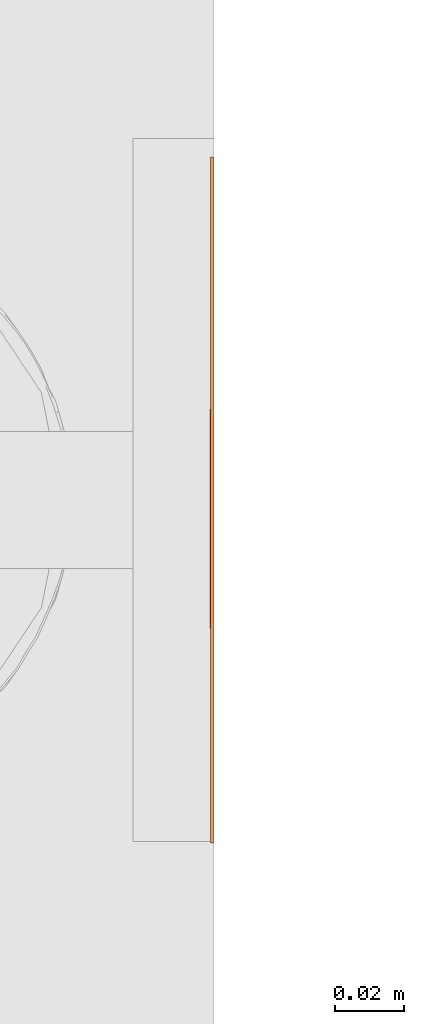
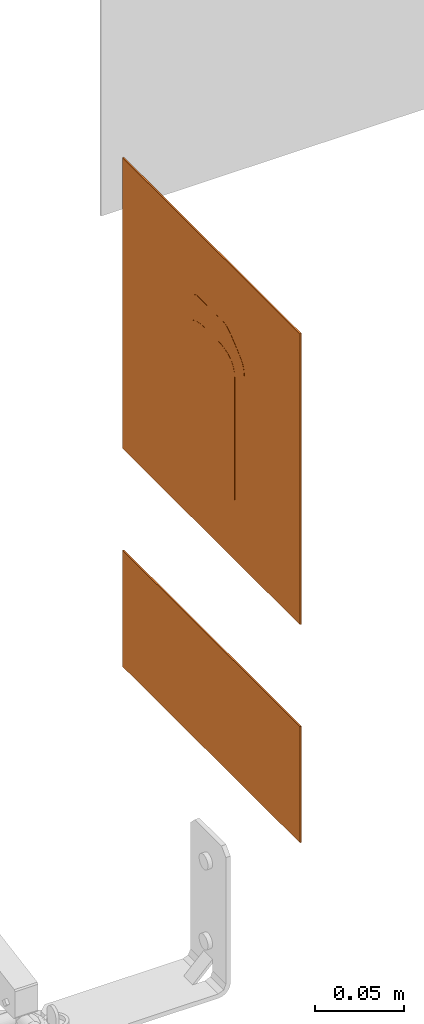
# One storey, part 66 of 119: 2 proxies.
"""IFC2X3 building model written with IfcOpenShell, lengths in metres."""

from ifc_helpers import new_model, entity, si_unit, converted_unit, derived_unit, direction, frame, frame_2d, origin, origin_2d_with_axis, place, context, subcontext, project, spatial, polyline, circle_curve, parameter, trimmed, segment, composite_curve, rectangle, outline, extrude, source, transform, mapped, material, material_list, type_object, type_shapes, element, save


model = new_model("IFC2X3")

# Units and contexts
model_context = context("Model", 3, precision=1e-05, world=origin(), true_north=direction((6.12303176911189e-17, 1.0)))
body_context = subcontext(model_context, "Body", "Model", "MODEL_VIEW")
ifc_project = project(units=[si_unit("LENGTHUNIT", "METRE"), si_unit("AREAUNIT", "SQUARE_METRE"), si_unit("VOLUMEUNIT", "CUBIC_METRE"), converted_unit("PLANEANGLEUNIT", "DEGREE", entity("IfcRatioMeasure", 0.0174532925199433), si_unit("PLANEANGLEUNIT", "RADIAN"), dimensions=[0, 0, 0, 0, 0, 0, 0]), si_unit("MASSUNIT", "GRAM", prefix="KILO"), derived_unit("MASSDENSITYUNIT", [(si_unit("MASSUNIT", "GRAM", prefix="KILO"), 1), (si_unit("LENGTHUNIT", "METRE"), -3)]), derived_unit("MOMENTOFINERTIAUNIT", [(si_unit("LENGTHUNIT", "METRE"), 4)]), si_unit("TIMEUNIT", "SECOND"), si_unit("FREQUENCYUNIT", "HERTZ"), si_unit("THERMODYNAMICTEMPERATUREUNIT", "DEGREE_CELSIUS"), derived_unit("THERMALTRANSMITTANCEUNIT", [(si_unit("MASSUNIT", "GRAM", prefix="KILO"), 1), (si_unit("THERMODYNAMICTEMPERATUREUNIT", "KELVIN"), -1), (si_unit("TIMEUNIT", "SECOND"), -3)]), derived_unit("VOLUMETRICFLOWRATEUNIT", [(si_unit("LENGTHUNIT", "METRE"), 3), (si_unit("TIMEUNIT", "SECOND"), -1)]), si_unit("ELECTRICCURRENTUNIT", "AMPERE"), si_unit("ELECTRICVOLTAGEUNIT", "VOLT"), si_unit("POWERUNIT", "WATT"), si_unit("FORCEUNIT", "NEWTON", prefix="KILO"), si_unit("ILLUMINANCEUNIT", "LUX"), si_unit("LUMINOUSFLUXUNIT", "LUMEN"), si_unit("LUMINOUSINTENSITYUNIT", "CANDELA"), derived_unit("USERDEFINED", [(si_unit("MASSUNIT", "GRAM", prefix="KILO"), -1), (si_unit("LENGTHUNIT", "METRE"), -2), (si_unit("TIMEUNIT", "SECOND"), 3), (si_unit("LUMINOUSFLUXUNIT", "LUMEN"), 1)]), derived_unit("LINEARVELOCITYUNIT", [(si_unit("LENGTHUNIT", "METRE"), 1), (si_unit("TIMEUNIT", "SECOND"), -1)]), si_unit("PRESSUREUNIT", "PASCAL"), derived_unit("USERDEFINED", [(si_unit("LENGTHUNIT", "METRE"), -2), (si_unit("MASSUNIT", "GRAM", prefix="KILO"), 1), (si_unit("TIMEUNIT", "SECOND"), -2)]), derived_unit("LINEARFORCEUNIT", [(si_unit("MASSUNIT", "GRAM", prefix="KILO"), 1), (si_unit("LENGTHUNIT", "METRE"), 1), (si_unit("TIMEUNIT", "SECOND"), -2), (si_unit("LENGTHUNIT", "METRE"), -1)]), derived_unit("PLANARFORCEUNIT", [(si_unit("MASSUNIT", "GRAM", prefix="KILO"), 1), (si_unit("LENGTHUNIT", "METRE"), 1), (si_unit("TIMEUNIT", "SECOND"), -2), (si_unit("LENGTHUNIT", "METRE"), -2)])], contexts=[model_context])

# Site, building, storey
site_placement = place(None, origin())
site = spatial("IfcSite", under=ifc_project, at=site_placement, Name="Default", CompositionType="ELEMENT")
building_placement = place(site_placement, origin())
building = spatial("IfcBuilding", under=site, at=building_placement, CompositionType="ELEMENT")
storey_placement = place(building_placement, origin())
storey = spatial("IfcBuildingStorey", under=building, at=storey_placement, Name="PAV. 01 - TÉRREO", CompositionType="ELEMENT", Elevation=0.0)

# Proxies
ifc_material_1 = material(Name="Plastico branco")
ifc_material_2 = material(Name="Plastico vermelho")
ifc_material_list_1 = material_list([ifc_material_1, ifc_material_2])
building_element_proxy_type_1 = type_object("IfcBuildingElementProxyType", Name="Sinalização de equipamentos - E05 - Extintor de incêndio:Distância 08m", PredefinedType="NOTDEFINED", material=ifc_material_1)
shared_shape_1 = source(origin(), body_context, "Body", "SweptSolid", [
    extrude(outline(composite_curve([segment(polyline([(-0.039533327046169, -0.0988107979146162), (0.0136590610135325, -0.0988107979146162)]), True, "CONTINUOUS"), segment(polyline([(0.0136590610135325, -0.0988107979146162), (0.0136590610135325, -0.0150548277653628)]), True, "CONTINUOUS"), segment(polyline([(0.0136590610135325, -0.0150548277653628), (0.0132403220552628, -0.0112272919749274)]), True, "CONTINUOUS"), segment(polyline([(0.0132403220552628, -0.0112272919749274), (0.0119841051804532, -0.00798860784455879)]), True, "CONTINUOUS"), segment(polyline([(0.0119841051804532, -0.00798860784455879), (0.00989041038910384, -0.00533877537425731)]), True, "CONTINUOUS"), segment(polyline([(0.00989041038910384, -0.00533877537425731), (0.00695923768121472, -0.00327779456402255)]), True, "CONTINUOUS"), segment(polyline([(0.00695923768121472, -0.00327779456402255), (0.00319058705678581, -0.00180566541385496)]), True, "CONTINUOUS"), segment(polyline([(0.00319058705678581, -0.00180566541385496), (-0.00141554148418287, -0.000922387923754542)]), True, "CONTINUOUS"), segment(polyline([(-0.00141554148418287, -0.000922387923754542), (-0.00685914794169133, -0.000627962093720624)]), True, "CONTINUOUS"), segment(polyline([(-0.00685914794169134, -0.000627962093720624), (-0.00685914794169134, 0.00837547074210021)]), True, "CONTINUOUS"), segment(polyline([(-0.00685914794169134, 0.00837547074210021), (0.000568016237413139, 0.00837547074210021)]), True, "CONTINUOUS"), segment(polyline([(0.000568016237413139, 0.00837547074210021), (0.021500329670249, -0.0075875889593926)]), True, "CONTINUOUS"), segment(polyline([(0.021500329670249, -0.0075875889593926), (0.021500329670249, -0.0104328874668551)]), True, "CONTINUOUS"), segment(polyline([(0.021500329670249, -0.0104328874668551), (0.0245059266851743, -0.0104328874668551)]), True, "CONTINUOUS"), segment(polyline([(0.0245059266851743, -0.0104328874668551), (0.0245059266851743, -0.00811335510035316)]), True, "CONTINUOUS"), segment(polyline([(0.0245059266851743, -0.00811335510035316), (0.0243642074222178, -0.00545038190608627)]), True, "CONTINUOUS"), segment(polyline([(0.0243642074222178, -0.00545038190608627), (0.0239570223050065, -0.0032112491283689)]), True, "CONTINUOUS"), segment(polyline([(0.0239570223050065, -0.0032112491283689), (0.0233113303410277, -0.00132119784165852)]), True, "CONTINUOUS"), segment(polyline([(0.0233113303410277, -0.00132119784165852), (0.0224540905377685, 0.00029453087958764)]), True, "CONTINUOUS"), segment(polyline([(0.0224540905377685, 0.00029453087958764), (0.0214122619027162, 0.00171069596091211)]), True, "CONTINUOUS"), segment(polyline([(0.0214122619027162, 0.00171069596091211), (0.0202128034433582, 0.00300205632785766)]), True, "CONTINUOUS"), segment(polyline([(0.0202128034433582, 0.00300205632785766), (0.0188826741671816, 0.00424337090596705)]), True, "CONTINUOUS"), segment(polyline([(0.0188826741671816, 0.00424337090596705), (0.0144021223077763, 0.00811180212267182)]), True, "CONTINUOUS"), segment(polyline([(0.0144021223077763, 0.00811180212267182), (0.0113518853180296, 0.0106145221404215)]), True, "CONTINUOUS"), segment(polyline([(0.0113518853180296, 0.0106145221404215), (0.0085825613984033, 0.0127576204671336)]), True, "CONTINUOUS"), segment(polyline([(0.0085825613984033, 0.0127576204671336), (0.00738733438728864, 0.0136170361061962)]), True, "CONTINUOUS"), segment(polyline([(0.00738733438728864, 0.0136170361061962), (0.00631521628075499, 0.0143235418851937)]), True, "CONTINUOUS"), segment(polyline([(0.00631521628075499, 0.0143235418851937), (0.00532850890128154, 0.0148903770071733)]), True, "CONTINUOUS"), segment(polyline([(0.00532850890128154, 0.0148903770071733), (0.00438926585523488, 0.0153309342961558)]), True, "CONTINUOUS"), segment(polyline([(0.00438926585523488, 0.0153309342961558), (0.00345954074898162, 0.0156586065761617)]), True, "CONTINUOUS"), segment(polyline([(0.00345954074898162, 0.0156586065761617), (0.00250138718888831, 0.0158867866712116)]), True, "CONTINUOUS"), segment(polyline([(0.00250138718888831, 0.0158867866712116), (0.00144087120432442, 0.0160289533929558)]), True, "CONTINUOUS"), segment(polyline([(0.00144087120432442, 0.0160289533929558), (-0.000108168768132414, 0.0160993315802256)]), True, "CONTINUOUS"), segment(polyline([(-0.000108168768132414, 0.0160993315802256), (-0.00685914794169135, 0.0160831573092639)]), True, "CONTINUOUS"), segment(polyline([(-0.00685914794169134, 0.0160831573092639), (-0.00685914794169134, 0.0213863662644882)]), True, "CONTINUOUS"), segment(polyline([(-0.00685914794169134, 0.0213863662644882), (-0.0177728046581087, 0.0213863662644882)]), True, "CONTINUOUS"), segment(polyline([(-0.0177728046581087, 0.0213863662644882), (-0.0177728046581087, 0.0160831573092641)]), True, "CONTINUOUS"), segment(polyline([(-0.0177728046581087, 0.0160831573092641), (-0.0288467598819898, 0.0160831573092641)]), True, "CONTINUOUS"), segment(trimmed(circle_curve(frame_2d((-0.0288467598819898, 0.0122293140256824), x_axis=(-1.0, 0.0)), 0.00385384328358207), [parameter(270.0)], [parameter(90.0000000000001)], True, "PARAMETER"), True, "CONTINUOUS"), segment(polyline([(-0.0288467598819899, 0.00837547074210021), (-0.0190151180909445, 0.00837547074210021)]), True, "CONTINUOUS"), segment(polyline([(-0.0190151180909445, 0.00837547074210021), (-0.0190151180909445, -0.000627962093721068)]), True, "CONTINUOUS"), segment(polyline([(-0.0190151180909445, -0.000627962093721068), (-0.024458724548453, -0.000922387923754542)]), True, "CONTINUOUS"), segment(polyline([(-0.024458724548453, -0.000922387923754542), (-0.0290648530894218, -0.00180566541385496)]), True, "CONTINUOUS"), segment(polyline([(-0.0290648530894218, -0.00180566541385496), (-0.0328335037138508, -0.00327779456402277)]), True, "CONTINUOUS"), segment(polyline([(-0.0328335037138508, -0.00327779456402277), (-0.03576467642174, -0.00533877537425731)]), True, "CONTINUOUS"), segment(polyline([(-0.03576467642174, -0.00533877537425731), (-0.0378583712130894, -0.00798860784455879)]), True, "CONTINUOUS"), segment(polyline([(-0.0378583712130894, -0.00798860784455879), (-0.0391145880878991, -0.0112272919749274)]), True, "CONTINUOUS"), segment(polyline([(-0.0391145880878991, -0.0112272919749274), (-0.039533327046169, -0.0150548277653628)]), True, "CONTINUOUS"), segment(polyline([(-0.039533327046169, -0.0150548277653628), (-0.039533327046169, -0.0988107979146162)]), True, "CONTINUOUS")], self_intersect=False)), frame((-0.0129371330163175, 0.0, 1.94006139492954), z_axis=(0.0, 1.0, 0.0), x_axis=(-1.0, 0.0, 0.0)), (0.0, 0.0, 1.0), 0.0011),
    extrude(rectangle(XDim=0.179, YDim=0.001, at=origin_2d_with_axis()), frame((0.0, 0.0005, 1.8105), z_axis=(0.0, 0.0, 1.0), x_axis=(-1.0, 0.0, 0.0)), (0.0, 0.0, 1.0), 0.179),
    extrude(outline(polyline([(-0.100000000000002, -0.1), (0.100000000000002, -0.1), (0.100000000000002, 0.1), (-0.100000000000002, 0.1), (-0.100000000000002, -0.1)]), holes=[polyline([(-0.0895000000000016, -0.0895000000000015), (-0.0895000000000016, 0.0894999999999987), (0.0894999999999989, 0.0894999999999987), (0.0894999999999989, -0.0895000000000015), (-0.0895000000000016, -0.0895000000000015)])]), frame((0.0, 0.0, 1.9), z_axis=(0.0, 1.0, 0.0), x_axis=(0.0, 0.0, -1.0)), (0.0, 0.0, 1.0), 0.001),
])
type_shapes(building_element_proxy_type_1, [shared_shape_1])
proxy_1_placement = place(storey_placement, frame((46.3738248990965, 22.9250290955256, 0.0), z_axis=(0.0, 0.0, 1.0), x_axis=(0.0, 1.0, 0.0)))
element("IfcBuildingElementProxy", 1, at=proxy_1_placement, inside=storey, type_object=building_element_proxy_type_1, material=ifc_material_list_1, Name="Sinalização de equipamentos - E05 - Extintor de incêndio:Distância 08m", ObjectType="Sinalização de equipamentos - E05 - Extintor de incêndio:Distância 08m", context=body_context, shape_type="MappedRepresentation", body=[
    mapped(shared_shape_1, transform((0.0, 0.0, 0.0), scale=1.0)),
])
ifc_material_3 = material(Name="Plastico Preto")
ifc_material_4 = material(Name="Plastico azul claro")
ifc_material_5 = material(Name="Plastico Verde")
ifc_material_list_2 = material_list([ifc_material_3, ifc_material_4, ifc_material_2, ifc_material_1, ifc_material_5])
building_element_proxy_type_2 = type_object("IfcBuildingElementProxyType", Name="Sinalização de equipamentos - E05 - Extintor de incêndio - TIPO 2:Placa de extintor - E6-A", PredefinedType="NOTDEFINED", material=ifc_material_3)
shared_shape_2 = source(origin(), body_context, "Body", "SweptSolid", [
    extrude(rectangle(XDim=0.0243464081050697, YDim=0.001, at=origin_2d_with_axis()), frame((0.0791678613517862, 0.0005, 0.0143679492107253), z_axis=(0.0, 0.0, 1.0), x_axis=(-1.0, 0.0, 0.0)), (0.0, 0.0, 1.0), 0.0243153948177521),
    extrude(rectangle(XDim=0.0243464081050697, YDim=0.001, at=origin_2d_with_axis()), frame((0.0514092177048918, 0.0005, 0.0143679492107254), z_axis=(0.0, 0.0, 1.0), x_axis=(-1.0, 0.0, 0.0)), (0.0, 0.0, 1.0), 0.0243153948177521),
    extrude(rectangle(XDim=0.0243464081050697, YDim=0.001, at=origin_2d_with_axis()), frame((0.023605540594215, 0.0005, 0.0143679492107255), z_axis=(0.0, 0.0, 1.0), x_axis=(-1.0, 0.0, 0.0)), (0.0, 0.0, 1.0), 0.0243153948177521),
    extrude(rectangle(XDim=0.0243464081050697, YDim=0.001, at=origin_2d_with_axis()), frame((-0.00415310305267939, 0.0005, 0.0143679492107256), z_axis=(0.0, 0.0, 1.0), x_axis=(-1.0, 0.0, 0.0)), (0.0, 0.0, 1.0), 0.0243153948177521),
    extrude(outline(polyline([(-0.0399999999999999, -0.1), (0.0399999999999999, -0.1), (0.0399999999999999, 0.1), (-0.0399999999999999, 0.1), (-0.0399999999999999, -0.1)]), holes=[polyline([(-0.0319999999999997, 0.091), (-0.0150022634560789, 0.091), (-0.0150022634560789, -0.091), (-0.0319999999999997, -0.091), (-0.0319999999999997, 0.091)]), polyline([(-0.010791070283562, 0.091), (0.0319999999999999, 0.091), (0.0319999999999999, 0.0473282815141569), (-0.010791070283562, 0.0473282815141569), (-0.010791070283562, 0.091)]), polyline([(0.00131665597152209, 0.0441091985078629), (0.0256320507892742, 0.0441091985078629), (0.0256320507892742, 0.0197627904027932), (0.00131665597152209, 0.0197627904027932), (0.00131665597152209, 0.0441091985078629)]), polyline([(0.00131665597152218, 0.0163263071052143), (0.0256320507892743, 0.0163263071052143), (0.0256320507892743, -0.00802010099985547), (0.00131665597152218, -0.00802010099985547), (0.00131665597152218, 0.0163263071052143)]), polyline([(0.00131665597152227, -0.0114323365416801), (0.0256320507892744, -0.0114323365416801), (0.0256320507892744, -0.0357787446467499), (0.00131665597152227, -0.0357787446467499), (0.00131665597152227, -0.0114323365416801)]), polyline([(0.00131665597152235, -0.0635824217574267), (0.00131665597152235, -0.039236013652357), (0.0256320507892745, -0.039236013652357), (0.0256320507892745, -0.0635824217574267), (0.00131665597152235, -0.0635824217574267)]), polyline([(0.00131665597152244, -0.0669946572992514), (0.0256320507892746, -0.0669946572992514), (0.0256320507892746, -0.091), (0.00131665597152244, -0.091), (0.00131665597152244, -0.0669946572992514)])]), frame((0.0, 0.0, 0.0399999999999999), z_axis=(0.0, 1.0, 0.0), x_axis=(0.0, 0.0, -1.0)), (0.0, 0.0, 1.0), 0.001),
    extrude(outline(composite_curve([segment(trimmed(circle_curve(frame_2d((-0.00182713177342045, 0.0030692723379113), x_axis=(1.0, 0.0)), 0.00333179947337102), [parameter(180.0)], [parameter(270.0)], True, "PARAMETER"), True, "CONTINUOUS"), segment(polyline([(-0.00182713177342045, -0.000262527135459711), (-0.000430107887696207, -0.000262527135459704)]), True, "CONTINUOUS"), segment(polyline([(-0.000430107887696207, -0.000262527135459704), (-0.000430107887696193, -0.00350797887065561)]), True, "CONTINUOUS"), segment(polyline([(-0.000430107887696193, -0.00350797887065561), (-0.00249820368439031, -0.00350797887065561)]), True, "CONTINUOUS"), segment(polyline([(-0.00249820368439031, -0.00350797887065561), (-0.00742535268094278, 7.18044171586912e-05)]), True, "CONTINUOUS"), segment(polyline([(-0.00742535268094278, 7.18044171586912e-05), (-0.00742535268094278, 0.00166630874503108)]), True, "CONTINUOUS"), segment(polyline([(-0.00742535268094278, 0.00166630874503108), (-0.00871124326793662, 0.00166630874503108)]), True, "CONTINUOUS"), segment(polyline([(-0.00871124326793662, 0.00166630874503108), (-0.00846384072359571, -0.00134355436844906)]), True, "CONTINUOUS"), segment(trimmed(circle_curve(frame_2d((-0.00608099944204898, -0.00114769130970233), x_axis=(1.0, 0.0)), 0.00239087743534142), [parameter(184.698993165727)], [parameter(232.0)], True, "PARAMETER"), True, "CONTINUOUS"), segment(polyline([(-0.00755297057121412, -0.00303172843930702), (-0.0030496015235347, -0.00655014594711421)]), True, "CONTINUOUS"), segment(polyline([(-0.0030496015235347, -0.00655014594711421), (-0.000124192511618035, -0.00655014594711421)]), True, "CONTINUOUS"), segment(polyline([(-0.000124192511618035, -0.00655014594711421), (-0.000124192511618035, -0.00788602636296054)]), True, "CONTINUOUS"), segment(polyline([(-0.000124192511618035, -0.00788602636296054), (0.003207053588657, -0.00788602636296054)]), True, "CONTINUOUS"), segment(polyline([(0.003207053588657, -0.00788602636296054), (0.003207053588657, -0.00698801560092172)]), True, "CONTINUOUS"), segment(polyline([(0.003207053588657, -0.00698801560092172), (0.00540783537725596, -0.00698801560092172)]), True, "CONTINUOUS"), segment(polyline([(0.00540783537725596, -0.00698801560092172), (0.00665542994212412, -0.00574042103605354)]), True, "CONTINUOUS"), segment(polyline([(0.00665542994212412, -0.00574042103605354), (0.00665542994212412, -0.00450724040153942)]), True, "CONTINUOUS"), segment(polyline([(0.00665542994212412, -0.00450724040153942), (0.00491919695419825, -0.00324579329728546)]), True, "CONTINUOUS"), segment(polyline([(0.00491919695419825, -0.00324579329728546), (0.00355615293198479, -0.00324579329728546)]), True, "CONTINUOUS"), segment(polyline([(0.00355615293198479, -0.00324579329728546), (0.00355615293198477, -0.000262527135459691)]), True, "CONTINUOUS"), segment(polyline([(0.00355615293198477, -0.000262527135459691), (0.00500257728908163, -0.000262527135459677)]), True, "CONTINUOUS"), segment(trimmed(circle_curve(frame_2d((0.00500257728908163, 0.00284153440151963), x_axis=(1.0, 0.0)), 0.00310406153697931), [parameter(270.0)], [parameter(1.52666624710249e-13)], True, "PARAMETER"), True, "CONTINUOUS"), segment(polyline([(0.00810663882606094, 0.00284153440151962), (0.0081066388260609, 0.0313568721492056)]), True, "CONTINUOUS"), segment(polyline([(0.0081066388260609, 0.0313568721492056), (-0.00515893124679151, 0.0313568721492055)]), True, "CONTINUOUS"), segment(polyline([(-0.00515893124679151, 0.0313568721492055), (-0.00515893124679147, 0.00306927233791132)]), True, "CONTINUOUS")], self_intersect=False)), frame((-0.0705753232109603, 0.0, 0.0413479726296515), z_axis=(0.0, 1.0, 0.0), x_axis=(1.0, 0.0, 0.0)), (0.0, 0.0, 1.0), 0.001),
    extrude(rectangle(XDim=0.0243464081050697, YDim=0.001, at=origin_2d_with_axis()), frame((-0.0319359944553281, 0.0005, 0.0143679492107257), z_axis=(0.0, 0.0, 1.0), x_axis=(-1.0, 0.0, 0.0)), (0.0, 0.0, 1.0), 0.0243153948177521),
    extrude(outline(polyline([(-0.0218358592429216, -0.021395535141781), (0.0218358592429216, -0.021395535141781), (0.0218358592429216, 0.021395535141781), (-0.0218358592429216, 0.021395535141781), (-0.0218358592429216, -0.021395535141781)]), holes=[composite_curve([segment(polyline([(-0.00669545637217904, -0.0194044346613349), (-0.00669545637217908, 0.00911090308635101)]), True, "CONTINUOUS"), segment(trimmed(circle_curve(frame_2d((-0.00359139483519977, 0.00911090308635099), x_axis=(-1.0, 0.0)), 0.00310406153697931), [parameter(270.0)], [parameter(360.0)], True, "PARAMETER"), False, "CONTINUOUS"), segment(polyline([(-0.0035913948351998, 0.0122149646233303), (-0.00214497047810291, 0.0122149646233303)]), True, "CONTINUOUS"), segment(polyline([(-0.00214497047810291, 0.0122149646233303), (-0.00214497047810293, 0.0151982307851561)]), True, "CONTINUOUS"), segment(polyline([(-0.00214497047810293, 0.0151982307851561), (-0.0035080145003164, 0.0151982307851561)]), True, "CONTINUOUS"), segment(polyline([(-0.0035080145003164, 0.0151982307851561), (-0.00524424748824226, 0.01645967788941)]), True, "CONTINUOUS"), segment(polyline([(-0.00524424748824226, 0.01645967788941), (-0.00524424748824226, 0.0176928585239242)]), True, "CONTINUOUS"), segment(polyline([(-0.00524424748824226, 0.0176928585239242), (-0.0039966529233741, 0.0189404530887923)]), True, "CONTINUOUS"), segment(polyline([(-0.0039966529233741, 0.0189404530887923), (-0.00179587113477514, 0.0189404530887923)]), True, "CONTINUOUS"), segment(polyline([(-0.00179587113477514, 0.0189404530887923), (-0.00179587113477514, 0.0198384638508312)]), True, "CONTINUOUS"), segment(polyline([(-0.00179587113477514, 0.0198384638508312), (0.00153537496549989, 0.0198384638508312)]), True, "CONTINUOUS"), segment(polyline([(0.00153537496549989, 0.0198384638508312), (0.00153537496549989, 0.0185025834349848)]), True, "CONTINUOUS"), segment(polyline([(0.00153537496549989, 0.0185025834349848), (0.00446078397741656, 0.0185025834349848)]), True, "CONTINUOUS"), segment(polyline([(0.00446078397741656, 0.0185025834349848), (0.00896415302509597, 0.0149841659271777)]), True, "CONTINUOUS"), segment(trimmed(circle_curve(frame_2d((0.00749218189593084, 0.0131001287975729), x_axis=(-1.0, 0.0)), 0.00239087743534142), [parameter(184.698993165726)], [parameter(231.999999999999)], True, "PARAMETER"), False, "CONTINUOUS"), segment(polyline([(0.00987502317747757, 0.0132959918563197), (0.0101224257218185, 0.0102861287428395)]), True, "CONTINUOUS"), segment(polyline([(0.0101224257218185, 0.0102861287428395), (0.00883653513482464, 0.0102861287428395)]), True, "CONTINUOUS"), segment(polyline([(0.00883653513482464, 0.0102861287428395), (0.00883653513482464, 0.0118806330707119)]), True, "CONTINUOUS"), segment(polyline([(0.00883653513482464, 0.0118806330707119), (0.00390938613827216, 0.0154604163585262)]), True, "CONTINUOUS"), segment(polyline([(0.00390938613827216, 0.0154604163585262), (0.00184129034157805, 0.0154604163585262)]), True, "CONTINUOUS"), segment(polyline([(0.00184129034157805, 0.0154604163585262), (0.00184129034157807, 0.0122149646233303)]), True, "CONTINUOUS"), segment(polyline([(0.00184129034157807, 0.0122149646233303), (0.00323831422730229, 0.0122149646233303)]), True, "CONTINUOUS"), segment(trimmed(circle_curve(frame_2d((0.00323831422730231, 0.00888316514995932), x_axis=(-1.0, 0.0)), 0.00333179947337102), [parameter(180.0)], [parameter(270.0)], True, "PARAMETER"), False, "CONTINUOUS"), segment(polyline([(0.00657011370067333, 0.00888316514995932), (0.00657011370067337, -0.0194044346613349)]), True, "CONTINUOUS"), segment(polyline([(0.00657011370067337, -0.0194044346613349), (-0.00669545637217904, -0.0194044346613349)]), True, "CONTINUOUS")], self_intersect=False)]), frame((-0.0691641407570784, 0.0, 0.0293955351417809), z_axis=(0.0, 1.0, 0.0), x_axis=(-1.0, 0.0, 0.0)), (0.0, 0.0, 1.0), 0.001),
    extrude(rectangle(XDim=0.182, YDim=0.001, at=origin_2d_with_axis()), frame((0.0, 0.0005, 0.0550022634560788), z_axis=(0.0, 0.0, 1.0), x_axis=(-1.0, 0.0, 0.0)), (0.0, 0.0, 1.0), 0.0169977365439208),
])
type_shapes(building_element_proxy_type_2, [shared_shape_2])
proxy_2_placement = place(storey_placement, frame((46.3738248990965, 22.9250290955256, 1.65), z_axis=(0.0, 0.0, 1.0), x_axis=(0.0, 1.0, 0.0)))
element("IfcBuildingElementProxy", 2, at=proxy_2_placement, inside=storey, type_object=building_element_proxy_type_2, material=ifc_material_list_2, Name="Sinalização de equipamentos - E05 - Extintor de incêndio - TIPO 2:Placa de extintor - E6-A", ObjectType="Sinalização de equipamentos - E05 - Extintor de incêndio - TIPO 2:Placa de extintor - E6-A", context=body_context, shape_type="MappedRepresentation", body=[
    mapped(shared_shape_2, transform((0.0, 0.0, 0.0), scale=1.0)),
])

save(model, "model.ifc")
